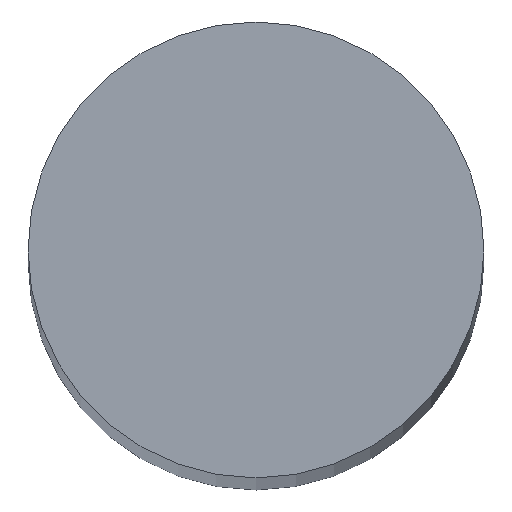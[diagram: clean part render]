
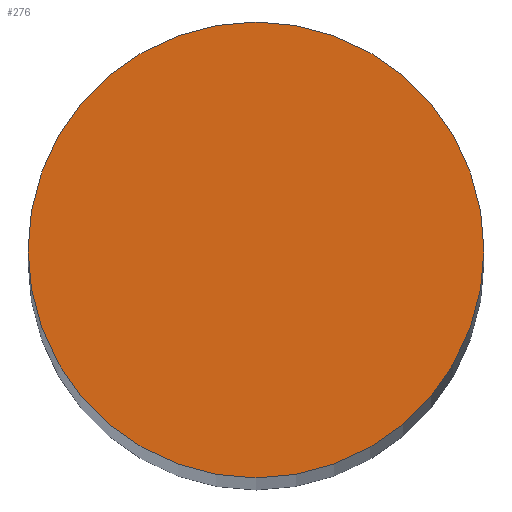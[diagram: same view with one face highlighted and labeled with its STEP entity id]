
A CAD part, top view. The second image highlights one B-rep face of the part: STEP entity #276.
In plain terms, the highlighted planar face has unit normal (0, 0, 1).
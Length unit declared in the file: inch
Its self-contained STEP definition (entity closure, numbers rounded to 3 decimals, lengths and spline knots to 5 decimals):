
#217=CARTESIAN_POINT('',(0.0,-0.0625,2.5));
#218=VERTEX_POINT('',#217);
#225=CARTESIAN_POINT('',(0.0,0.0625,2.5));
#226=VERTEX_POINT('',#225);
#227=CARTESIAN_POINT('',(0.0,0.0,2.5));
#228=DIRECTION('',(0.0,-0.0,-1.0));
#229=DIRECTION('',(0.0,1.0,-0.0));
#230=AXIS2_PLACEMENT_3D('',#227,#228,#229);
#231=CIRCLE('',#230,0.0625);
#232=EDGE_CURVE('no 1919',#218,#226,#231,.T.);
#252=CARTESIAN_POINT('',(0.0,0.0,2.5));
#253=DIRECTION('',(0.0,-0.0,-1.0));
#254=DIRECTION('',(0.0,1.0,-0.0));
#255=AXIS2_PLACEMENT_3D('',#252,#253,#254);
#256=CIRCLE('',#255,0.0625);
#257=EDGE_CURVE('no 1923',#226,#218,#256,.T.);
#267=ORIENTED_EDGE('',*,*,#232,.F.);
#268=ORIENTED_EDGE('',*,*,#257,.F.);
#269=EDGE_LOOP('',(#267,#268));
#270=FACE_OUTER_BOUND('',#269,.T.);
#271=CARTESIAN_POINT('',(0.0625,0.0,2.5));
#272=DIRECTION('',(0.0,0.0,1.0));
#273=DIRECTION('',(0.0,-1.0,0.0));
#274=AXIS2_PLACEMENT_3D('',#271,#272,#273);
#275=PLANE('',#274);
#276=ADVANCED_FACE('no 2070',(#270),#275,.T.);
